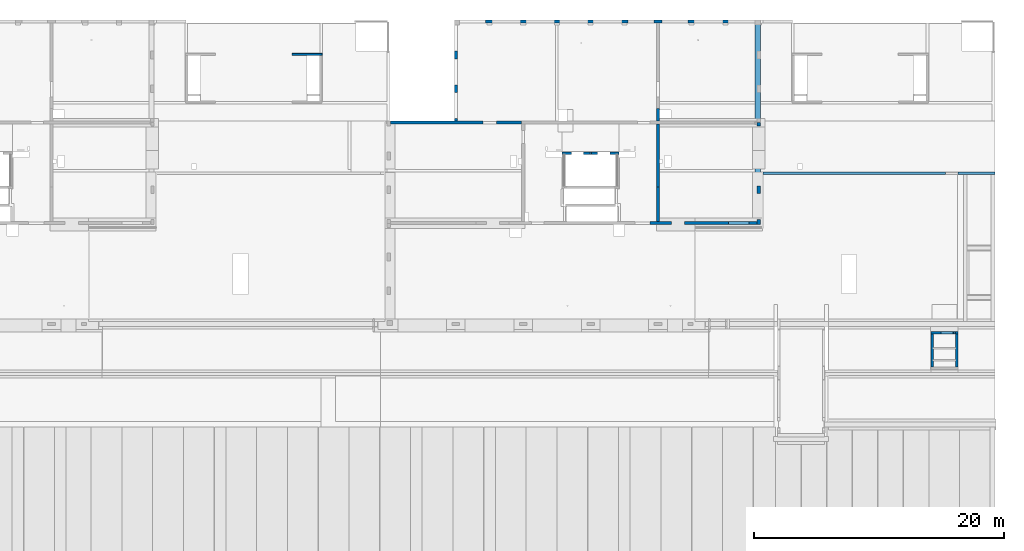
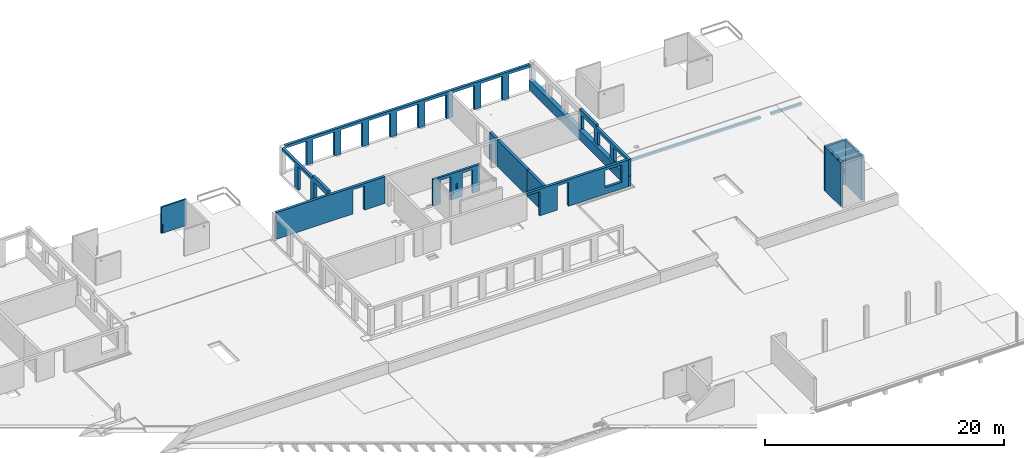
# One storey, part 22 of 36: 16 walls, 32 openings.
"""IFC2X3 building model written with IfcOpenShell, lengths in millimetres."""

from ifc_helpers import new_model, entity, si_unit, converted_unit, derived_unit, direction, frame, frame_2d, origin, origin_2d_with_axis, place, context, subcontext, project, spatial, polyline, rectangle, extrude, clip, bounded_halfspace, material, layer, layer_set, layer_usage, type_object, element, save


model = new_model("IFC2X3")

# Units and contexts
model_context = context("Model", 3, precision=0.01, world=origin(), true_north=direction((6.12303176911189e-17, 1.0)))
body_context = subcontext(model_context, "Body", "Model", "MODEL_VIEW")
ifc_project = project(units=[si_unit("LENGTHUNIT", "METRE", prefix="MILLI"), si_unit("AREAUNIT", "SQUARE_METRE"), si_unit("VOLUMEUNIT", "CUBIC_METRE"), converted_unit("PLANEANGLEUNIT", "DEGREE", entity("IfcRatioMeasure", 0.0174532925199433), si_unit("PLANEANGLEUNIT", "RADIAN"), dimensions=[0, 0, 0, 0, 0, 0, 0]), si_unit("MASSUNIT", "GRAM", prefix="KILO"), derived_unit("MASSDENSITYUNIT", [(si_unit("MASSUNIT", "GRAM", prefix="KILO"), 1), (si_unit("LENGTHUNIT", "METRE"), -3)]), si_unit("TIMEUNIT", "SECOND"), si_unit("FREQUENCYUNIT", "HERTZ"), si_unit("THERMODYNAMICTEMPERATUREUNIT", "DEGREE_CELSIUS"), derived_unit("THERMALTRANSMITTANCEUNIT", [(si_unit("MASSUNIT", "GRAM", prefix="KILO"), 1), (si_unit("THERMODYNAMICTEMPERATUREUNIT", "KELVIN"), -1), (si_unit("TIMEUNIT", "SECOND"), -3)]), derived_unit("VOLUMETRICFLOWRATEUNIT", [(si_unit("LENGTHUNIT", "METRE"), 3), (si_unit("TIMEUNIT", "SECOND"), -1)]), si_unit("ELECTRICCURRENTUNIT", "AMPERE"), si_unit("ELECTRICVOLTAGEUNIT", "VOLT"), si_unit("POWERUNIT", "WATT"), si_unit("FORCEUNIT", "NEWTON", prefix="KILO"), si_unit("ILLUMINANCEUNIT", "LUX"), si_unit("LUMINOUSFLUXUNIT", "LUMEN"), si_unit("LUMINOUSINTENSITYUNIT", "CANDELA"), derived_unit("USERDEFINED", [(si_unit("MASSUNIT", "GRAM", prefix="KILO"), -1), (si_unit("LENGTHUNIT", "METRE"), -2), (si_unit("TIMEUNIT", "SECOND"), 3), (si_unit("LUMINOUSFLUXUNIT", "LUMEN"), 1)]), derived_unit("LINEARVELOCITYUNIT", [(si_unit("LENGTHUNIT", "METRE"), 1), (si_unit("TIMEUNIT", "SECOND"), -1)]), si_unit("PRESSUREUNIT", "PASCAL"), derived_unit("USERDEFINED", [(si_unit("LENGTHUNIT", "METRE"), -2), (si_unit("MASSUNIT", "GRAM", prefix="KILO"), 1), (si_unit("TIMEUNIT", "SECOND"), -2)])], contexts=[model_context])

# Site, building, storey
site_placement = place(None, origin())
site = spatial("IfcSite", under=ifc_project, at=site_placement, Name="Default", CompositionType="ELEMENT")
building_placement = place(site_placement, origin())
building = spatial("IfcBuilding", under=site, at=building_placement, Name="niet gebruiken", CompositionType="ELEMENT")
storey_placement = place(building_placement, frame((0.0, 0.0, 12600.0)))
storey = spatial("IfcBuildingStorey", under=building, at=storey_placement, Name="04 vierde verdieping", CompositionType="ELEMENT", Elevation=12600.0)

# Wall, opening
ifc_material_1 = material(Name="NLRS_f2_beton ihwg")
ifc_layer_1 = layer(ifc_material_1, 250.0)
ifc_layer_set_1 = layer_set([ifc_layer_1], Name="Basic Wall:NLRS_22.21_WA_beton ihwg d=250_gen")
ifc_layer_usage_1 = layer_usage(ifc_layer_set_1, "AXIS2", "NEGATIVE", 125.0)
wall_type_1 = type_object("IfcWallType", Name="Basic Wall:NLRS_22.21_WA_beton ihwg d=250_gen", PredefinedType="STANDARD", material=ifc_layer_set_1)
wall_1_placement = place(storey_placement, frame((75770.0, 45031.0, -90.0)))
wall_1 = element("IfcWallStandardCase", 1, at=wall_1_placement, inside=storey, type_object=wall_type_1, material=ifc_layer_usage_1, Name="Basic Wall:NLRS_22.21_WA_beton ihwg d=250_gen", ObjectType="Basic Wall:NLRS_22.21_WA_beton ihwg d=250_gen", context=body_context, shape_type="SweptSolid", body=[
    extrude(rectangle(XDim=10505.0, YDim=249.999999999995, at=frame_2d((5252.5, 0.0), x_axis=(-1.0, 0.0))), origin(), (0.0, 0.0, 1.0), 2719.99999999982),
])
opening_1_placement = place(wall_1_placement, origin())
element("IfcOpeningElement", 2, at=opening_1_placement, cuts=wall_1, Name="Basic Wall:NLRS_22.21_WA_beton ihwg d=250_gen", ObjectType="Opening", context=body_context, shape_type="SweptSolid", body=[
    extrude(rectangle(XDim=2470.0, YDim=1099.99999999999, at=origin_2d_with_axis()), frame((7955.0, -1649.0, 1235.0), z_axis=(0.0, 1.0, 0.0), x_axis=(0.0, 0.0, 1.0)), (0.0, 0.0, 1.0), 3048.0),
])

# Wall
ifc_layer_usage_2 = layer_usage(ifc_layer_set_1, "AXIS2", "NEGATIVE", 125.0)
wall_2_placement = place(storey_placement, frame((97200.0, 44906.0, -90.0), z_axis=(0.0, 0.0, 1.0), x_axis=(0.0, -1.0, 0.0)))
element("IfcWallStandardCase", 3, at=wall_2_placement, inside=storey, type_object=wall_type_1, material=ifc_layer_usage_2, Name="Basic Wall:NLRS_22.21_WA_beton ihwg d=250_gen", ObjectType="Basic Wall:NLRS_22.21_WA_beton ihwg d=250_gen", context=body_context, shape_type="SweptSolid", body=[
    extrude(rectangle(XDim=5050.0, YDim=250.000000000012, at=frame_2d((2525.0, -3.05533376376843e-12), x_axis=(-1.0, 0.0))), origin(), (0.0, 0.0, 1.0), 2719.99999999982),
])

# Wall, openings
ifc_layer_usage_3 = layer_usage(ifc_layer_set_1, "AXIS2", "NEGATIVE", 125.0)
wall_3_placement = place(storey_placement, frame((95350.0, 36981.0, -90.0)))
wall_3 = element("IfcWallStandardCase", 4, at=wall_3_placement, inside=storey, type_object=wall_type_1, material=ifc_layer_usage_3, Name="Basic Wall:NLRS_22.21_WA_beton ihwg d=250_gen", ObjectType="Basic Wall:NLRS_22.21_WA_beton ihwg d=250_gen", context=body_context, shape_type="SweptSolid", body=[
    extrude(rectangle(XDim=9780.00000000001, YDim=250.000000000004, at=frame_2d((4890.00000000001, 0.0), x_axis=(-1.0, 0.0))), origin(), (0.0, 0.0, 1.0), 2719.99999999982),
])
opening_2_placement = place(wall_3_placement, origin())
element("IfcOpeningElement", 5, at=opening_2_placement, cuts=wall_3, Name="Basic Wall:NLRS_22.21_WA_beton ihwg d=250_gen", ObjectType="Opening", context=body_context, shape_type="SweptSolid", body=[
    extrude(rectangle(XDim=2470.0, YDim=1053.99999999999, at=frame_2d((8.64019966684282e-12, 0.0), x_axis=(0.0, 1.0))), frame((3465.0, -1399.0, 1235.0), z_axis=(0.0, 1.0, 0.0), x_axis=(-1.0, 0.0, 0.0)), (0.0, 0.0, 1.0), 3048.0),
])
opening_3_placement = place(wall_3_placement, origin())
element("IfcOpeningElement", 6, at=opening_3_placement, cuts=wall_3, Name="Basic Wall:NLRS_22.21_WA_beton ihwg d=250_gen", ObjectType="Opening", context=body_context, shape_type="SweptSolid", body=[
    extrude(rectangle(XDim=2470.0, YDim=1225.0, at=frame_2d((8.69704308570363e-12, 0.0), x_axis=(0.0, 1.0))), frame((612.500000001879, -1399.0, 1235.0), z_axis=(0.0, 1.0, 0.0), x_axis=(-1.0, 0.0, 0.0)), (0.0, 0.0, 1.0), 3048.0),
])
opening_4_placement = place(wall_3_placement, origin())
element("IfcOpeningElement", 7, at=opening_4_placement, cuts=wall_3, Name="Basic Wall:NLRS_22.21_WA_beton ihwg d=250_gen", ObjectType="Opening", context=body_context, shape_type="SweptSolid", body=[
    extrude(rectangle(XDim=1775.0, YDim=1639.99999999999, at=frame_2d((-8.69704308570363e-12, -1.08002495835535e-12), x_axis=(0.0, 1.0))), frame((8320.0, -1399.0, 1552.50000000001), z_axis=(0.0, 1.0, 0.0), x_axis=(-1.0, 0.0, 0.0)), (0.0, 0.0, 1.0), 3048.0),
])

# Walls
ifc_layer_usage_4 = layer_usage(ifc_layer_set_1, "AXIS2", "NEGATIVE", 125.0)
wall_4_placement = place(storey_placement, frame((97200.0, 46156.0, -90.0), z_axis=(0.0, 0.0, 1.0), x_axis=(0.0, -1.0, 0.0)))
element("IfcWallStandardCase", 8, at=wall_4_placement, inside=storey, type_object=wall_type_1, material=ifc_layer_usage_4, Name="Basic Wall:NLRS_22.21_WA_beton ihwg d=250_gen", ObjectType="Basic Wall:NLRS_22.21_WA_beton ihwg d=250_gen", context=body_context, shape_type="SweptSolid", body=[
    extrude(rectangle(XDim=999.999999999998, YDim=250.000000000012, at=frame_2d((499.999999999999, 1.10134124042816e-12), x_axis=(-1.0, 0.0))), origin(), (0.0, 0.0, 1.0), 2719.99999999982),
])
ifc_layer_usage_5 = layer_usage(ifc_layer_set_1, "AXIS2", "NEGATIVE", 125.0)
wall_5_placement = place(storey_placement, frame((97200.0, 39856.0, -90.0), z_axis=(0.0, 0.0, 1.0), x_axis=(0.0, -1.0, 0.0)))
element("IfcWallStandardCase", 9, at=wall_5_placement, inside=storey, type_object=wall_type_1, material=ifc_layer_usage_5, Name="Basic Wall:NLRS_22.21_WA_beton ihwg d=250_gen", ObjectType="Basic Wall:NLRS_22.21_WA_beton ihwg d=250_gen", context=body_context, shape_type="SweptSolid", body=[
    extrude(rectangle(XDim=2749.99999999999, YDim=250.000000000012, at=frame_2d((1375.0, 3.05533376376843e-12), x_axis=(-1.0, 0.0))), origin(), (0.0, 0.0, 1.0), 2719.99999999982),
])

# Wall, openings
ifc_material_2 = material(Name="NLRS_f2_beton prefab")
ifc_layer_2 = layer(ifc_material_2, 250.0)
ifc_layer_set_2 = layer_set([ifc_layer_2], Name="Basic Wall:NLRS_21.21_WA_beton prefab d=250_gen")
ifc_layer_usage_6 = layer_usage(ifc_layer_set_2, "AXIS2", "NEGATIVE", 125.0)
wall_type_2 = type_object("IfcWallType", Name="Basic Wall:NLRS_21.21_WA_beton prefab d=250_gen", PredefinedType="STANDARD", material=ifc_layer_set_2)
wall_6_placement = place(storey_placement, frame((81025.0, 52846.0, -60.0), z_axis=(0.0, 0.0, 1.0), x_axis=(0.0, -1.0, 0.0)))
wall_6 = element("IfcWallStandardCase", 10, at=wall_6_placement, inside=storey, type_object=wall_type_2, material=ifc_layer_usage_6, Name="Basic Wall:NLRS_21.21_WA_beton prefab d=250_gen", ObjectType="Basic Wall:NLRS_21.21_WA_beton prefab d=250_gen", context=body_context, shape_type="SweptSolid", body=[
    extrude(rectangle(XDim=7670.00000000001, YDim=250.000000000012, at=frame_2d((3835.0, 0.0), x_axis=(-1.0, 0.0))), origin(), (0.0, 0.0, 1.0), 2940.0),
])
opening_5_placement = place(wall_6_placement, origin())
element("IfcOpeningElement", 11, at=opening_5_placement, cuts=wall_6, Name="Basic Wall:NLRS_21.21_WA_beton prefab d=250_gen", ObjectType="Opening", context=body_context, shape_type="SweptSolid", body=[
    extrude(rectangle(XDim=2420.0, YDim=2080.0, at=frame_2d((0.0, 1.02318153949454e-12), x_axis=(0.0, 1.0))), frame((6440.0, -1399.0, 1200.0), z_axis=(0.0, 1.0, 0.0), x_axis=(-1.0, 0.0, 0.0)), (0.0, 0.0, 1.0), 3048.0),
])
opening_6_placement = place(wall_6_placement, origin())
element("IfcOpeningElement", 12, at=opening_6_placement, cuts=wall_6, Name="Basic Wall:NLRS_21.21_WA_beton prefab d=250_gen", ObjectType="Opening", context=body_context, shape_type="SweptSolid", body=[
    extrude(rectangle(XDim=2420.0, YDim=2080.0, at=frame_2d((0.0, 1.02318153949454e-12), x_axis=(0.0, 1.0))), frame((3740.0, -1399.0, 1200.0), z_axis=(0.0, 1.0, 0.0), x_axis=(-1.0, 0.0, 0.0)), (0.0, 0.0, 1.0), 3048.0),
])
opening_7_placement = place(wall_6_placement, origin())
element("IfcOpeningElement", 13, at=opening_7_placement, cuts=wall_6, Name="Basic Wall:NLRS_21.21_WA_beton prefab d=250_gen", ObjectType="Opening", context=body_context, shape_type="SweptSolid", body=[
    extrude(rectangle(XDim=2420.0, YDim=2080.0, at=frame_2d((0.0, 1.02318153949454e-12), x_axis=(0.0, 1.0))), frame((1040.0, -1399.0, 1200.0), z_axis=(0.0, 1.0, 0.0), x_axis=(-1.0, 0.0, 0.0)), (0.0, 0.0, 1.0), 3048.0),
])
opening_8_placement = place(wall_6_placement, origin())
element("IfcOpeningElement", 14, at=opening_8_placement, cuts=wall_6, Name="Basic Wall:NLRS_21.21_WA_beton prefab d=250_gen", ObjectType="Opening", context=body_context, shape_type="SweptSolid", body=[
    extrude(rectangle(XDim=250.000000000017, YDim=5089.99999999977, at=frame_2d((4.32009983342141e-12, 0.0), x_axis=(0.0, 1.0))), frame((2545.0, 125.0, 2815.0), z_axis=(0.0, -1.0, 0.0), x_axis=(-1.0, 0.0, 0.0)), (0.0, 0.0, 1.0), 250.0),
])

ifc_layer_usage_7 = layer_usage(ifc_layer_set_2, "AXIS2", "NEGATIVE", 125.0)
wall_7_placement = place(storey_placement, frame((105275.0, 45046.0, 940.0), z_axis=(0.0, 0.0, 1.0), x_axis=(0.0, -1.0, 0.0)))
wall_7 = element("IfcWallStandardCase", 15, at=wall_7_placement, inside=storey, type_object=wall_type_2, material=ifc_layer_usage_7, Name="Basic Wall:NLRS_21.21_WA_beton prefab d=250_gen", ObjectType="Basic Wall:NLRS_21.21_WA_beton prefab d=250_gen", context=body_context, shape_type="SweptSolid", body=[
    extrude(rectangle(XDim=8189.99999999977, YDim=250.000000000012, at=frame_2d((4094.99999999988, 0.0), x_axis=(-1.0, 0.0))), origin(), (0.0, 0.0, 1.0), 1940.0),
])
opening_9_placement = place(wall_7_placement, origin())
element("IfcOpeningElement", 16, at=opening_9_placement, cuts=wall_7, Name="Basic Wall:NLRS_21.21_WA_beton prefab d=250_gen", ObjectType="Opening", context=body_context, shape_type="SweptSolid", body=[
    extrude(rectangle(XDim=1420.0, YDim=2080.0, at=frame_2d((0.0, 0.0), x_axis=(0.0, 1.0))), frame((1340.0, -1399.0, 700.0), z_axis=(0.0, 1.0, 0.0), x_axis=(-1.0, 0.0, 0.0)), (0.0, 0.0, 1.0), 3048.0),
])
opening_10_placement = place(wall_7_placement, origin())
element("IfcOpeningElement", 17, at=opening_10_placement, cuts=wall_7, Name="Basic Wall:NLRS_21.21_WA_beton prefab d=250_gen", ObjectType="Opening", context=body_context, shape_type="SweptSolid", body=[
    extrude(rectangle(XDim=1420.0, YDim=2080.0, at=frame_2d((0.0, 0.0), x_axis=(0.0, 1.0))), frame((4040.0, -1399.0, 700.0), z_axis=(0.0, 1.0, 0.0), x_axis=(-1.0, 0.0, 0.0)), (0.0, 0.0, 1.0), 3048.0),
])
opening_11_placement = place(wall_7_placement, origin())
element("IfcOpeningElement", 18, at=opening_11_placement, cuts=wall_7, Name="Basic Wall:NLRS_21.21_WA_beton prefab d=250_gen", ObjectType="Opening", context=body_context, shape_type="SweptSolid", body=[
    extrude(rectangle(XDim=1420.0, YDim=2080.0, at=frame_2d((0.0, 0.0), x_axis=(0.0, 1.0))), frame((6740.0, -1399.0, 700.0), z_axis=(0.0, 1.0, 0.0), x_axis=(-1.0, 0.0, 0.0)), (0.0, 0.0, 1.0), 3048.0),
])
opening_12_placement = place(wall_7_placement, origin())
element("IfcOpeningElement", 19, at=opening_12_placement, cuts=wall_7, Name="Basic Wall:NLRS_21.21_WA_beton prefab d=250_gen", ObjectType="Opening", context=body_context, shape_type="SweptSolid", body=[
    extrude(rectangle(XDim=250.000000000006, YDim=5500.0000000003, at=frame_2d((1.08002495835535e-12, 4.32009983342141e-12), x_axis=(1.0, 0.0))), frame((5440.0, 125.0, 1815.0), z_axis=(0.0, -1.0, 0.0), x_axis=(0.0, 0.0, 1.0)), (0.0, 0.0, 1.0), 250.0),
])

ifc_layer_3 = layer(ifc_material_2, 200.0)
ifc_layer_set_3 = layer_set([ifc_layer_3], Name="Basic Wall:NLRS_22.21_WA_beton prefab d=200_gen")
ifc_layer_usage_8 = layer_usage(ifc_layer_set_3, "AXIS2", "NEGATIVE", 100.0)
wall_type_3 = type_object("IfcWallType", Name="Basic Wall:NLRS_22.21_WA_beton prefab d=200_gen", PredefinedType="STANDARD", material=ifc_layer_set_3)
wall_8_placement = place(storey_placement, frame((89525.0, 42596.0, -70.0)))
wall_8 = element("IfcWallStandardCase", 20, at=wall_8_placement, inside=storey, type_object=wall_type_3, material=ifc_layer_usage_8, Name="Basic Wall:NLRS_22.21_WA_beton prefab d=200_gen", ObjectType="Basic Wall:NLRS_22.21_WA_beton prefab d=200_gen", context=body_context, shape_type="SweptSolid", body=[
    extrude(rectangle(XDim=4550.00000000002, YDim=200.000000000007, at=frame_2d((2275.00000000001, 7.8159700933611e-13), x_axis=(-1.0, 0.0))), origin(), (0.0, 0.0, 1.0), 2699.99999999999),
])
opening_13_placement = place(wall_8_placement, origin())
element("IfcOpeningElement", 21, at=opening_13_placement, cuts=wall_8, Name="Basic Wall:NLRS_22.21_WA_beton prefab d=200_gen", ObjectType="Opening", context=body_context, shape_type="SweptSolid", body=[
    extrude(rectangle(XDim=2430.0, YDim=980.000000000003, at=frame_2d((0.0, -8.66862137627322e-12), x_axis=(1.0, 0.0))), frame((1219.99984910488, -1624.0, 1195.0), z_axis=(0.0, 1.0, 0.0), x_axis=(0.0, 0.0, 1.0)), (0.0, 0.0, 1.0), 3048.0),
])
opening_14_placement = place(wall_8_placement, origin())
element("IfcOpeningElement", 22, at=opening_14_placement, cuts=wall_8, Name="Basic Wall:NLRS_22.21_WA_beton prefab d=200_gen", ObjectType="Opening", context=body_context, shape_type="SweptSolid", body=[
    extrude(rectangle(XDim=2430.0, YDim=980.000000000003, at=frame_2d((0.0, 8.66862137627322e-12), x_axis=(1.0, 0.0))), frame((3329.99984910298, -1624.0, 1195.0), z_axis=(0.0, 1.0, 0.0), x_axis=(0.0, 0.0, 1.0)), (0.0, 0.0, 1.0), 3048.0),
])
opening_15_placement = place(wall_8_placement, origin())
element("IfcOpeningElement", 23, at=opening_15_placement, cuts=wall_8, Name="Basic Wall:NLRS_22.21_WA_beton prefab d=200_gen", ObjectType="Opening", context=body_context, shape_type="SweptSolid", body=[
    extrude(rectangle(XDim=505.000000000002, YDim=135.000000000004, at=frame_2d((0.0, -8.66151594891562e-12), x_axis=(1.0, 0.0))), frame((2275.0, -1624.0, 1272.5), z_axis=(0.0, 1.0, 0.0), x_axis=(0.0, 0.0, 1.0)), (0.0, 0.0, 1.0), 3048.0),
])

ifc_layer_usage_9 = layer_usage(ifc_layer_set_3, "AXIS2", "NEGATIVE", 100.0)
wall_9_placement = place(storey_placement, frame((121225.0, 28206.0, -140.0), z_axis=(0.0, 0.0, 1.0), x_axis=(-1.0, 0.0, 0.0)))
wall_9 = element("IfcWallStandardCase", 24, at=wall_9_placement, inside=storey, type_object=wall_type_3, material=ifc_layer_usage_9, Name="Basic Wall:NLRS_22.21_WA_beton prefab d=200_gen", ObjectType="Basic Wall:NLRS_22.21_WA_beton prefab d=200_gen", context=body_context, shape_type="SweptSolid", body=[
    extrude(rectangle(XDim=2150.00000000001, YDim=199.999999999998, at=frame_2d((1075.00000000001, -2.48689957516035e-13), x_axis=(-1.0, 0.0))), origin(), (0.0, 0.0, 1.0), 4530.0),
])
opening_16_placement = place(wall_9_placement, origin())
element("IfcOpeningElement", 25, at=opening_16_placement, cuts=wall_9, Name="Basic Wall:NLRS_22.21_WA_beton prefab d=200_gen", ObjectType="Opening", context=body_context, shape_type="SweptSolid", body=[
    extrude(rectangle(XDim=2340.0, YDim=980.000000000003, at=frame_2d((8.66862137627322e-12, 0.0), x_axis=(0.0, 1.0))), frame((870.0, -1424.0, 1370.0), z_axis=(0.0, 1.0, 0.0), x_axis=(-1.0, 0.0, 0.0)), (0.0, 0.0, 1.0), 3048.0),
])
opening_17_placement = place(wall_9_placement, origin())
element("IfcOpeningElement", 26, at=opening_17_placement, cuts=wall_9, Name="Basic Wall:NLRS_22.21_WA_beton prefab d=200_gen", ObjectType="Opening", context=body_context, shape_type="SweptSolid", body=[
    extrude(rectangle(XDim=515.000000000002, YDim=99.9999999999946, at=frame_2d((8.66506866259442e-12, 1.08002495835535e-12), x_axis=(0.0, 1.0))), frame((250.0, -1424.0, 1407.5), z_axis=(0.0, 1.0, 0.0), x_axis=(-1.0, 0.0, 0.0)), (0.0, 0.0, 1.0), 3048.0),
])

ifc_layer_usage_10 = layer_usage(ifc_layer_set_3, "AXIS2", "NEGATIVE", 100.0)
wall_10_placement = place(storey_placement, frame((119175.0, 25426.0, -140.0), z_axis=(0.0, 0.0, 1.0), x_axis=(0.0, 1.0, 0.0)))
wall_10 = element("IfcWallStandardCase", 27, at=wall_10_placement, inside=storey, type_object=wall_type_3, material=ifc_layer_usage_10, Name="Basic Wall:NLRS_22.21_WA_beton prefab d=200_gen", ObjectType="Basic Wall:NLRS_22.21_WA_beton prefab d=200_gen", context=body_context, shape_type="SweptSolid", body=[
    extrude(rectangle(XDim=2680.0, YDim=199.999999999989, at=frame_2d((1340.0, 0.0), x_axis=(-1.0, 0.0))), origin(), (0.0, 0.0, 1.0), 4530.0),
])
opening_18_placement = place(wall_10_placement, origin())
element("IfcOpeningElement", 28, at=opening_18_placement, cuts=wall_10, Name="Basic Wall:NLRS_22.21_WA_beton prefab d=200_gen", ObjectType="Opening", context=body_context, shape_type="SweptSolid", body=[
    extrude(rectangle(XDim=140.000000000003, YDim=200.000000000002, at=frame_2d((2.16715534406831e-12, 0.0), x_axis=(0.0, 1.0))), frame((564.0, -1424.0, 4490.0), z_axis=(0.0, 1.0, 0.0), x_axis=(-1.0, 0.0, 0.0)), (0.0, 0.0, 1.0), 3048.0),
])
opening_19_placement = place(wall_10_placement, origin())
element("IfcOpeningElement", 29, at=opening_19_placement, cuts=wall_10, Name="Basic Wall:NLRS_22.21_WA_beton prefab d=200_gen", ObjectType="Opening", context=body_context, shape_type="SweptSolid", body=[
    extrude(rectangle(XDim=140.000000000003, YDim=200.000000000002, at=frame_2d((2.16715534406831e-12, 0.0), x_axis=(0.0, 1.0))), frame((1514.0, -1424.0, 4490.0), z_axis=(0.0, 1.0, 0.0), x_axis=(-1.0, 0.0, 0.0)), (0.0, 0.0, 1.0), 3048.0),
])

ifc_layer_usage_11 = layer_usage(ifc_layer_set_3, "AXIS2", "NEGATIVE", 100.0)
wall_11_placement = place(storey_placement, frame((121125.0, 25426.0, -140.0), z_axis=(0.0, 0.0, 1.0), x_axis=(0.0, 1.0, 0.0)))
wall_11 = element("IfcWallStandardCase", 30, at=wall_11_placement, inside=storey, type_object=wall_type_3, material=ifc_layer_usage_11, Name="Basic Wall:NLRS_22.21_WA_beton prefab d=200_gen", ObjectType="Basic Wall:NLRS_22.21_WA_beton prefab d=200_gen", context=body_context, shape_type="SweptSolid", body=[
    extrude(rectangle(XDim=2680.0, YDim=199.999999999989, at=frame_2d((1340.0, 0.0), x_axis=(-1.0, 0.0))), origin(), (0.0, 0.0, 1.0), 4530.0),
])
opening_20_placement = place(wall_11_placement, origin())
element("IfcOpeningElement", 31, at=opening_20_placement, cuts=wall_11, Name="Basic Wall:NLRS_22.21_WA_beton prefab d=200_gen", ObjectType="Opening", context=body_context, shape_type="SweptSolid", body=[
    extrude(rectangle(XDim=140.000000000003, YDim=199.999999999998, at=frame_2d((0.0, 0.0), x_axis=(0.0, 1.0))), frame((564.0, -1424.0, 4480.0), z_axis=(0.0, 1.0, 0.0), x_axis=(-1.0, 0.0, 0.0)), (0.0, 0.0, 1.0), 3048.0),
])
opening_21_placement = place(wall_11_placement, origin())
element("IfcOpeningElement", 32, at=opening_21_placement, cuts=wall_11, Name="Basic Wall:NLRS_22.21_WA_beton prefab d=200_gen", ObjectType="Opening", context=body_context, shape_type="SweptSolid", body=[
    extrude(rectangle(XDim=140.000000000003, YDim=199.999999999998, at=frame_2d((4.33431068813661e-12, 0.0), x_axis=(0.0, 1.0))), frame((1514.0, -1424.0, 4480.0), z_axis=(0.0, 1.0, 0.0), x_axis=(-1.0, 0.0, 0.0)), (0.0, 0.0, 1.0), 3048.0),
])

ifc_layer_4 = layer(ifc_material_1, 250.0)
ifc_layer_set_4 = layer_set([ifc_layer_4], Name="Basic Wall:NLRS_21.21_WA_beton ihwg d=250_gen")
ifc_layer_usage_12 = layer_usage(ifc_layer_set_4, "AXIS2", "NEGATIVE", 125.0)
wall_type_4 = type_object("IfcWallType", Name="Basic Wall:NLRS_21.21_WA_beton ihwg d=250_gen", PredefinedType="STANDARD", material=ifc_layer_set_4)
wall_12_placement = place(storey_placement, frame((104990.0, 53131.0, -90.0), z_axis=(0.0, 0.0, 1.0), x_axis=(-1.0, 0.0, 0.0)))
wall_12 = element("IfcWallStandardCase", 33, at=wall_12_placement, inside=storey, type_object=wall_type_4, material=ifc_layer_usage_12, Name="Basic Wall:NLRS_21.21_WA_beton ihwg d=250_gen", ObjectType="Basic Wall:NLRS_21.21_WA_beton ihwg d=250_gen", context=body_context, shape_type="SweptSolid", body=[
    extrude(rectangle(XDim=23660.0000000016, YDim=249.999999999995, at=frame_2d((11830.0000000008, -1.91846538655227e-13), x_axis=(-1.0, 0.0))), origin(), (0.0, 0.0, 1.0), 2720.0),
])
opening_22_placement = place(wall_12_placement, origin())
element("IfcOpeningElement", 34, at=opening_22_placement, cuts=wall_12, Name="Basic Wall:NLRS_21.21_WA_beton ihwg d=250_gen", ObjectType="Opening", context=body_context, shape_type="SweptSolid", body=[
    extrude(rectangle(XDim=2440.0, YDim=2080.0, at=frame_2d((8.64019966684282e-12, 1.13686837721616e-12), x_axis=(0.0, 1.0))), frame((22640.0, -1399.0, 1220.0), z_axis=(0.0, 1.0, 0.0), x_axis=(-1.0, 0.0, 0.0)), (0.0, 0.0, 1.0), 3048.0),
])
opening_23_placement = place(wall_12_placement, origin())
element("IfcOpeningElement", 35, at=opening_23_placement, cuts=wall_12, Name="Basic Wall:NLRS_21.21_WA_beton ihwg d=250_gen", ObjectType="Opening", context=body_context, shape_type="SweptSolid", body=[
    extrude(rectangle(XDim=2440.0, YDim=2080.0, at=frame_2d((-8.64019966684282e-12, -1.13686837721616e-12), x_axis=(0.0, 1.0))), frame((19940.0, -1399.0, 1220.0), z_axis=(0.0, 1.0, 0.0), x_axis=(-1.0, 0.0, 0.0)), (0.0, 0.0, 1.0), 3048.0),
])
opening_24_placement = place(wall_12_placement, origin())
element("IfcOpeningElement", 36, at=opening_24_placement, cuts=wall_12, Name="Basic Wall:NLRS_21.21_WA_beton ihwg d=250_gen", ObjectType="Opening", context=body_context, shape_type="SweptSolid", body=[
    extrude(rectangle(XDim=2440.0, YDim=2080.0, at=frame_2d((-8.64019966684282e-12, 1.13686837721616e-12), x_axis=(0.0, 1.0))), frame((17240.0, -1399.0, 1220.0), z_axis=(0.0, 1.0, 0.0), x_axis=(-1.0, 0.0, 0.0)), (0.0, 0.0, 1.0), 3048.0),
])
opening_25_placement = place(wall_12_placement, origin())
element("IfcOpeningElement", 37, at=opening_25_placement, cuts=wall_12, Name="Basic Wall:NLRS_21.21_WA_beton ihwg d=250_gen", ObjectType="Opening", context=body_context, shape_type="SweptSolid", body=[
    extrude(rectangle(XDim=2440.0, YDim=2080.0, at=frame_2d((8.64019966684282e-12, -1.13686837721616e-12), x_axis=(0.0, 1.0))), frame((14540.0, -1399.0, 1220.0), z_axis=(0.0, 1.0, 0.0), x_axis=(-1.0, 0.0, 0.0)), (0.0, 0.0, 1.0), 3048.0),
])
opening_26_placement = place(wall_12_placement, origin())
element("IfcOpeningElement", 38, at=opening_26_placement, cuts=wall_12, Name="Basic Wall:NLRS_21.21_WA_beton ihwg d=250_gen", ObjectType="Opening", context=body_context, shape_type="SweptSolid", body=[
    extrude(rectangle(XDim=2440.0, YDim=2080.0, at=frame_2d((-8.64019966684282e-12, 1.13686837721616e-12), x_axis=(0.0, 1.0))), frame((11840.0, -1399.0, 1220.0), z_axis=(0.0, 1.0, 0.0), x_axis=(-1.0, 0.0, 0.0)), (0.0, 0.0, 1.0), 3048.0),
])
opening_27_placement = place(wall_12_placement, origin())
element("IfcOpeningElement", 39, at=opening_27_placement, cuts=wall_12, Name="Basic Wall:NLRS_21.21_WA_beton ihwg d=250_gen", ObjectType="Opening", context=body_context, shape_type="SweptSolid", body=[
    extrude(rectangle(XDim=2440.0, YDim=2080.0, at=frame_2d((-8.64019966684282e-12, -1.13686837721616e-12), x_axis=(0.0, 1.0))), frame((9140.0, -1399.0, 1220.0), z_axis=(0.0, 1.0, 0.0), x_axis=(-1.0, 0.0, 0.0)), (0.0, 0.0, 1.0), 3048.0),
])
opening_28_placement = place(wall_12_placement, origin())
element("IfcOpeningElement", 40, at=opening_28_placement, cuts=wall_12, Name="Basic Wall:NLRS_21.21_WA_beton ihwg d=250_gen", ObjectType="Opening", context=body_context, shape_type="SweptSolid", body=[
    extrude(rectangle(XDim=2440.0, YDim=2080.0, at=frame_2d((8.64019966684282e-12, 1.13686837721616e-12), x_axis=(0.0, 1.0))), frame((6440.0, -1399.0, 1220.0), z_axis=(0.0, 1.0, 0.0), x_axis=(-1.0, 0.0, 0.0)), (0.0, 0.0, 1.0), 3048.0),
])
opening_29_placement = place(wall_12_placement, origin())
element("IfcOpeningElement", 41, at=opening_29_placement, cuts=wall_12, Name="Basic Wall:NLRS_21.21_WA_beton ihwg d=250_gen", ObjectType="Opening", context=body_context, shape_type="SweptSolid", body=[
    extrude(rectangle(XDim=2440.0, YDim=2080.0, at=frame_2d((8.64019966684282e-12, -1.13686837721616e-12), x_axis=(0.0, 1.0))), frame((3740.0, -1399.0, 1220.0), z_axis=(0.0, 1.0, 0.0), x_axis=(-1.0, 0.0, 0.0)), (0.0, 0.0, 1.0), 3048.0),
])
opening_30_placement = place(wall_12_placement, origin())
element("IfcOpeningElement", 42, at=opening_30_placement, cuts=wall_12, Name="Basic Wall:NLRS_21.21_WA_beton ihwg d=250_gen", ObjectType="Opening", context=body_context, shape_type="SweptSolid", body=[
    extrude(rectangle(XDim=2440.0, YDim=2080.0, at=frame_2d((-8.64019966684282e-12, 1.13686837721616e-12), x_axis=(0.0, 1.0))), frame((1040.0, -1399.0, 1220.0), z_axis=(0.0, 1.0, 0.0), x_axis=(-1.0, 0.0, 0.0)), (0.0, 0.0, 1.0), 3048.0),
])

# Walls
wall_type_5 = type_object("IfcWallType", Name="NLRS_21.21_SF_WPB_oplegnok ihwg beton_gen:200x250", PredefinedType="NOTDEFINED", material=ifc_material_1)
wall_13_placement = place(storey_placement, frame((105625.0, 40861.0, -900.0)))
element("IfcWall", 43, at=wall_13_placement, inside=storey, type_object=wall_type_5, material=ifc_material_1, Name="NLRS_21.21_SF_WPB_oplegnok ihwg beton_gen:200x250", ObjectType="NLRS_21.21_SF_WPB_oplegnok ihwg beton_gen:200x250", context=body_context, shape_type="SweptSolid", body=[
    extrude(rectangle(XDim=14600.0000000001, YDim=199.999999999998, at=frame_2d((1911.66666666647, -33.333333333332), x_axis=(1.0, 0.0))), frame((5388.3333333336, 133.333333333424, 3.04935383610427e-09)), (0.0, 0.0, 1.0), 250.000000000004),
])
wall_14_placement = place(storey_placement, frame((121250.0, 40861.0, -895.0)))
element("IfcWall", 44, at=wall_14_placement, inside=storey, type_object=wall_type_5, material=ifc_material_1, Name="NLRS_21.21_SF_WPB_oplegnok ihwg beton_gen:200x250", ObjectType="NLRS_21.21_SF_WPB_oplegnok ihwg beton_gen:200x250", context=body_context, shape_type="SweptSolid", body=[
    extrude(rectangle(XDim=2950.00000000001, YDim=199.999999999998, at=frame_2d((8.64019966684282e-12, 4.33431068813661e-12), x_axis=(1.0, 0.0))), frame((1475.0, 100.0, 0.0)), (0.0, 0.0, 1.0), 250.000000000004),
])

# Wall, openings
ifc_layer_5 = layer(ifc_material_1, 150.0)
ifc_layer_set_5 = layer_set([ifc_layer_5], Name="Basic Wall:NLRS_21.21_WA_beton ihwg d=150_gen")
ifc_layer_usage_13 = layer_usage(ifc_layer_set_5, "AXIS2", "NEGATIVE", 75.0)
wall_type_6 = type_object("IfcWallType", Name="Basic Wall:NLRS_21.21_WA_beton ihwg d=150_gen", PredefinedType="STANDARD", material=ifc_layer_set_5)
wall_15_placement = place(storey_placement, frame((67870.0, 50501.0, -90.0)))
wall_15 = element("IfcWallStandardCase", 45, at=wall_15_placement, inside=storey, type_object=wall_type_6, material=ifc_layer_usage_13, Name="Basic Wall:NLRS_21.21_WA_beton ihwg d=150_gen", ObjectType="Basic Wall:NLRS_21.21_WA_beton ihwg d=150_gen", context=body_context, shape_type="SweptSolid", body=[
    extrude(rectangle(XDim=2405.00000000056, YDim=150.000000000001, at=frame_2d((1202.50000000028, 5.6843418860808e-14), x_axis=(-1.0, 0.0))), origin(), (0.0, 0.0, 1.0), 2690.0),
])
opening_31_placement = place(wall_15_placement, origin())
element("IfcOpeningElement", 46, at=opening_31_placement, cuts=wall_15, Name="Basic Wall:NLRS_21.21_WA_beton ihwg d=150_gen", ObjectType="Recess", context=body_context, shape_type="SweptSolid", body=[
    extrude(rectangle(XDim=830.0, YDim=50.000000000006, at=frame_2d((0.0, 1.08002495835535e-12), x_axis=(0.0, 1.0))), frame((100.0, -75.0, 415.0), z_axis=(0.0, 1.0, 0.0), x_axis=(1.0, 0.0, 0.0)), (0.0, 0.0, 1.0), 40.0000000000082),
])
opening_32_placement = place(wall_15_placement, origin())
element("IfcOpeningElement", 47, at=opening_32_placement, cuts=wall_15, Name="Basic Wall:NLRS_21.21_WA_beton ihwg d=150_gen", ObjectType="Recess", context=body_context, shape_type="SweptSolid", body=[
    extrude(rectangle(XDim=120.000000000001, YDim=125.000000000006, at=frame_2d((0.0, -1.08357767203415e-12), x_axis=(0.0, 1.0))), frame((62.4999999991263, -75.0, 890.0), z_axis=(0.0, 1.0, 0.0), x_axis=(1.0, 0.0, 0.0)), (0.0, 0.0, 1.0), 75.0000000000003),
])

# Wall
ifc_layer_6 = layer(ifc_material_1, 410.0)
ifc_layer_set_6 = layer_set([ifc_layer_6], Name="Basic Wall:NLRS_21.21_WA_beton ihwg d=410_gen")
ifc_layer_usage_14 = layer_usage(ifc_layer_set_6, "AXIS2", "NEGATIVE", 205.0)
wall_type_7 = type_object("IfcWallType", Name="Basic Wall:NLRS_21.21_WA_beton ihwg d=410_gen", PredefinedType="STANDARD", material=ifc_layer_set_6)
wall_16_placement = place(storey_placement, frame((105195.0, 36856.0, -90.0), z_axis=(0.0, 0.0, 1.0), x_axis=(0.0, 1.0, 0.0)))
element("IfcWallStandardCase", 48, at=wall_16_placement, inside=storey, type_object=wall_type_7, material=ifc_layer_usage_14, Name="Basic Wall:NLRS_21.21_WA_beton ihwg d=410_gen", ObjectType="Basic Wall:NLRS_21.21_WA_beton ihwg d=410_gen", context=body_context, shape_type="Clipping", body=[
    clip(clip(extrude(rectangle(XDim=16400.0000000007, YDim=410.000000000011, at=frame_2d((8200.00000000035, 0.0), x_axis=(-1.0, 0.0))), origin(), (0.0, 0.0, 1.0), 1000.00000000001), bounded_halfspace(frame((250.0, 65.0, 0.0), z_axis=(1.0, 0.0, 0.0), x_axis=(0.0, 1.0, 0.0)), True, frame((250.0, 65.0, 0.0), z_axis=(1.0, 0.0, 0.0), x_axis=(0.0, 1.0, 0.0)), polyline([(0.0, 0.0), (140.0, 0.0), (140.0, 1000.0), (0.0, 1000.0), (0.0, 0.0)]))), bounded_halfspace(frame((250.0, 65.0, 1000.0), z_axis=(0.0, -1.0, 0.0), x_axis=(1.0, 0.0, 0.0)), True, frame((250.0, 65.0, 1000.0), z_axis=(0.0, -1.0, 0.0), x_axis=(1.0, 0.0, 0.0)), polyline([(0.0, 0.0), (-250.0, 0.0), (-250.0, -1000.0), (0.0, -1000.0), (0.0, 0.0)]))),
])

save(model, "model.ifc")
